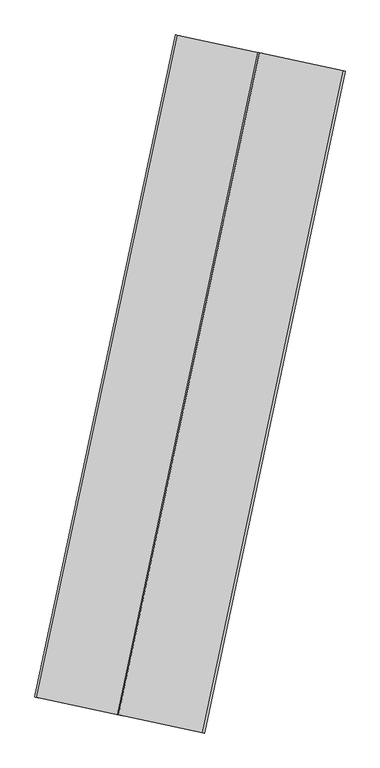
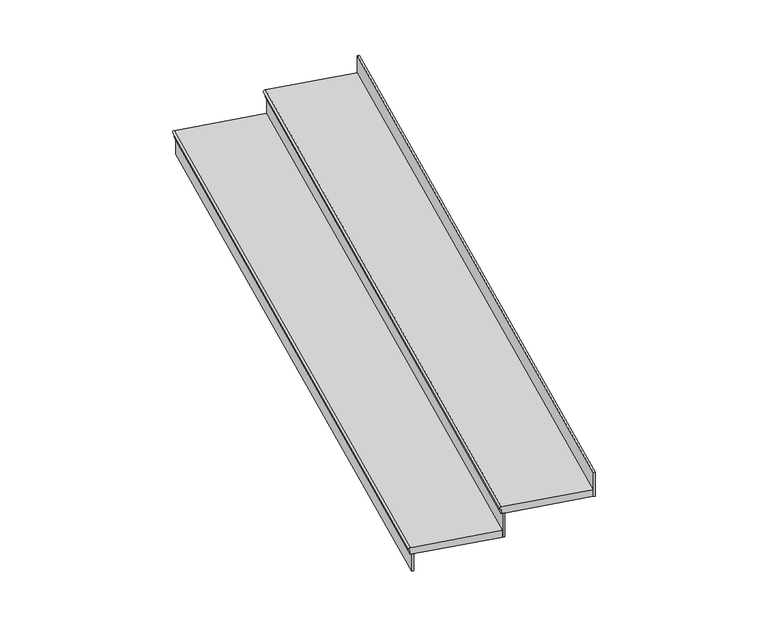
"""IFC4 building model written with IfcOpenShell, lengths in millimetres: stair flight geometry, Wood Steps with 50 mm Tread 20 mm Nosing 13 mm Riser."""

from ifc_helpers import new_model, si_unit, point, frame, frame_2d, origin, place, context, project, spatial, polyline, circle_curve, trimmed, segment, composite_curve, outline, extrude, source, transform, mapped, element, save


def stair_flight_d9eefb19(model_context):
    return source(origin(), model_context, "Body", "SweptSolid", [
        extrude(outline(composite_curve([segment(polyline([(0.0, -598.410772), (0.0, 0.0)]), True, "CONTINUOUS"), segment(trimmed(circle_curve(frame_2d((10.0, 0.0)), 10.0), [point((0.0, 0.0))], [point((20.0, 0.0))], False, "CARTESIAN"), True, "CONTINUOUS"), segment(polyline([(20.0, 0.0), (50.0, 0.0), (50.0, -598.410772), (0.0, -598.410772)]), True, "CONTINUOUS")], self_intersect=False)), frame((942704.7407732, 11.6238955, 7679.2941176), z_axis=(0.20819542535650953, 0.9780872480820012, 0.0), x_axis=(0.0, 0.0, -1.0)), (0.0, 0.0, 1.0), 4716.4731192),
        extrude(outline(polyline([(942726.7477363, 6.9394984), (942714.5216457, 9.5419412), (943696.4697729, 4622.664155), (943708.6958635, 4620.0617122), (942726.7477363, 6.9394984)])), frame((0.0, 0.0, 7500.0), z_axis=(0.0, 0.0, 1.0), x_axis=(1.0, 0.0, 0.0)), (0.0, 0.0, 1.0), 129.2941176),
        extrude(outline(polyline([(943302.264809, -115.5649326), (943290.0387184, -112.9624897), (944271.9868457, 4500.159724), (944284.2129363, 4497.5572812), (943302.264809, -115.5649326)])), frame((0.0, 0.0, 7629.2941176), z_axis=(0.0, 0.0, 1.0), x_axis=(1.0, 0.0, 0.0)), (0.0, 0.0, 1.0), 179.2941176),
        extrude(outline(polyline([(943877.7818818, -238.0693635), (943865.5557912, -235.4669207), (944847.5039184, 4377.6552931), (944859.730009, 4375.0528502), (943877.7818818, -238.0693635)])), frame((0.0, 0.0, 7808.5882353), z_axis=(0.0, 0.0, 1.0), x_axis=(1.0, 0.0, 0.0)), (0.0, 0.0, 1.0), 179.2941176),
        extrude(outline(composite_curve([segment(polyline([(0.0, -598.410772), (0.0, 0.0)]), True, "CONTINUOUS"), segment(trimmed(circle_curve(frame_2d((10.0, 0.0)), 10.0), [point((0.0, 0.0))], [point((20.0, 0.0))], False, "CARTESIAN"), True, "CONTINUOUS"), segment(polyline([(20.0, 0.0), (50.0, 0.0), (50.0, -598.410772), (0.0, -598.410772)]), True, "CONTINUOUS")], self_intersect=False)), frame((943280.257846, -110.8805355, 7858.5882353), z_axis=(0.20819542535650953, 0.9780872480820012, 0.0), x_axis=(0.0, 0.0, -1.0)), (0.0, 0.0, 1.0), 4716.4731192),
    ])


if __name__ == "__main__":
    model = new_model("IFC4")
    model_context = context("Model", 3, world=origin())
    ifc_project = project(units=[si_unit("LENGTHUNIT", "METRE", prefix="MILLI")], contexts=[model_context])
    site = spatial("IfcSite", under=ifc_project)
    building = spatial("IfcBuilding", under=site)
    placement = place(None, origin())
    stair_flight_shape = stair_flight_d9eefb19(model_context)
    element("IfcStairFlight", 1, ObjectType="Wood Steps with 50 mm Tread 20 mm Nosing 13 mm Riser", at=placement, inside=building, context=model_context, shape_type="MappedRepresentation", body=[
        mapped(stair_flight_shape, transform((0.0, 0.0, 0.0), x_axis=(1.0, 0.0, 0.0), y_axis=(0.0, 1.0, 0.0), z_axis=(0.0, 0.0, 1.0))),
    ])
    save(model, "model.ifc")
